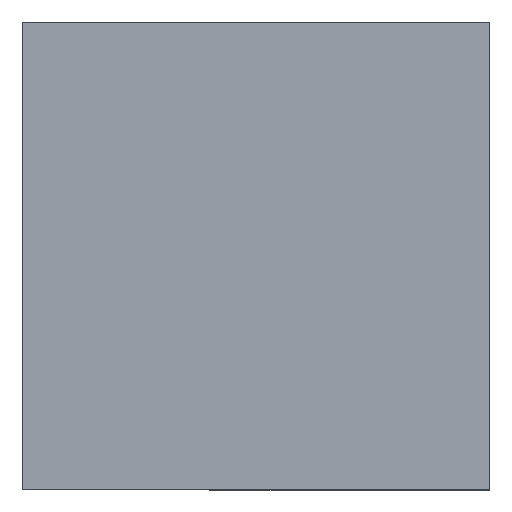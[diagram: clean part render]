
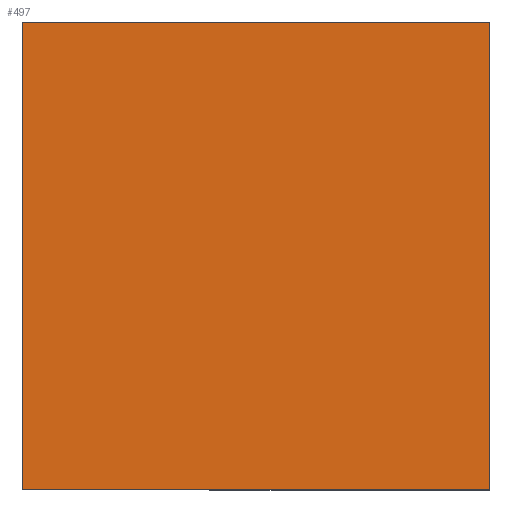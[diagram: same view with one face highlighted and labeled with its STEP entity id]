
A CAD part, top view. The second image highlights one B-rep face of the part: STEP entity #497.
In plain terms, the highlighted planar face has unit normal (0, 0, 1).
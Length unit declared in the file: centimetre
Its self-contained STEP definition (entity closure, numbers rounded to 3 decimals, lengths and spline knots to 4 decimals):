
#9 = VERTEX_POINT ( 'NONE', #18 ) ;
#18 = CARTESIAN_POINT ( 'NONE',  ( 1000., 1000., 1000. ) ) ;
#21 = EDGE_CURVE ( 'NONE', #9, #207, #222, .T. ) ;
#53 = CARTESIAN_POINT ( 'NONE',  ( 0., 0., 1000. ) ) ;
#59 = DIRECTION ( 'NONE',  ( 0., 0., 1. ) ) ;
#88 = CARTESIAN_POINT ( 'NONE',  ( 1000., 1000., 1000. ) ) ;
#96 = VECTOR ( 'NONE', #633, 100. ) ;
#99 = CARTESIAN_POINT ( 'NONE',  ( 0., 1000., 1000. ) ) ;
#115 = ORIENTED_EDGE ( 'NONE', *, *, #580, .T. ) ;
#121 = VERTEX_POINT ( 'NONE', #211 ) ;
#158 = DIRECTION ( 'NONE',  ( -1., 0., 0. ) ) ;
#162 = VERTEX_POINT ( 'NONE', #173 ) ;
#173 = CARTESIAN_POINT ( 'NONE',  ( 1000., 0., 1000. ) ) ;
#203 = PLANE ( 'NONE',  #308 ) ;
#207 = VERTEX_POINT ( 'NONE', #437 ) ;
#211 = CARTESIAN_POINT ( 'NONE',  ( 0., 0., 1000. ) ) ;
#222 = LINE ( 'NONE', #267, #321 ) ;
#267 = CARTESIAN_POINT ( 'NONE',  ( 0., 1000., 1000. ) ) ;
#308 = AXIS2_PLACEMENT_3D ( 'NONE', #53, #59, #400 ) ;
#321 = VECTOR ( 'NONE', #158, 100. ) ;
#346 = DIRECTION ( 'NONE',  ( 0., -1., 0. ) ) ;
#361 = EDGE_CURVE ( 'NONE', #162, #9, #628, .T. ) ;
#400 = DIRECTION ( 'NONE',  ( 1., 0., 0. ) ) ;
#414 = ORIENTED_EDGE ( 'NONE', *, *, #501, .T. ) ;
#425 = EDGE_LOOP ( 'NONE', ( #414, #115, #566, #555 ) ) ;
#435 = LINE ( 'NONE', #486, #96 ) ;
#437 = CARTESIAN_POINT ( 'NONE',  ( 0., 1000., 1000. ) ) ;
#486 = CARTESIAN_POINT ( 'NONE',  ( 0., 0., 1000. ) ) ;
#497 = ADVANCED_FACE ( 'NONE', ( #557 ), #203, .T. ) ;
#501 = EDGE_CURVE ( 'NONE', #207, #121, #598, .T. ) ;
#510 = VECTOR ( 'NONE', #346, 100. ) ;
#541 = DIRECTION ( 'NONE',  ( 0., 1., 0. ) ) ;
#555 = ORIENTED_EDGE ( 'NONE', *, *, #21, .T. ) ;
#557 = FACE_OUTER_BOUND ( 'NONE', #425, .T. ) ;
#566 = ORIENTED_EDGE ( 'NONE', *, *, #361, .T. ) ;
#580 = EDGE_CURVE ( 'NONE', #121, #162, #435, .T. ) ;
#589 = VECTOR ( 'NONE', #541, 100. ) ;
#598 = LINE ( 'NONE', #99, #510 ) ;
#628 = LINE ( 'NONE', #88, #589 ) ;
#633 = DIRECTION ( 'NONE',  ( 1., 0., 0. ) ) ;
